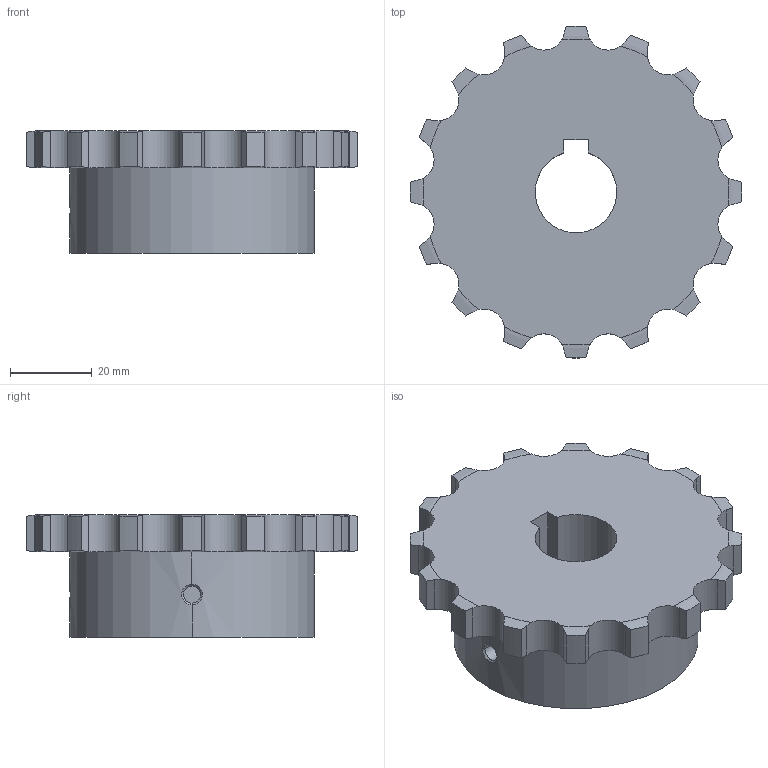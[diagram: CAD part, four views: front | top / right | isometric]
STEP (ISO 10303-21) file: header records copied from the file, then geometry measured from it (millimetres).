
FILE_DESCRIPTION((''),'2;1');
FILE_NAME('510-301-2016_PRT','2021-02-13T',('Brieden'),('Brieden'),'PRO/ENGINEER BY PARAMETRIC TECHNOLOGY CORPORATION, 2010160','PRO/ENGINEER BY PARAMETRIC TECHNOLOGY CORPORATION, 2010160','');
FILE_SCHEMA(('AUTOMOTIVE_DESIGN { 1 0 10303 214 1 1 1 1 }'));
Length unit declared in the file: millimetre
Products named in the file (1): 510-301-2016_PRT
Bounding box: 81.35 x 81.35 x 30 mm (x, y, z)
Volume: 90070.7 mm3; surface area: 17704.9 mm2
Topology: 1 solids, 1 shells, 117 faces, 333 edges, 220 vertices
Faces by surface type: cylinder 71, torus 32, plane 8, bspline 6
Entity records: 5662 total; most frequent: CARTESIAN_POINT 1735, ORIENTED_EDGE 666, DIRECTION 521, PRESENTATION_STYLE_ASSIGNMENT 334, STYLED_ITEM 334, CURVE_STYLE 333, EDGE_CURVE 333, VERTEX_POINT 220
